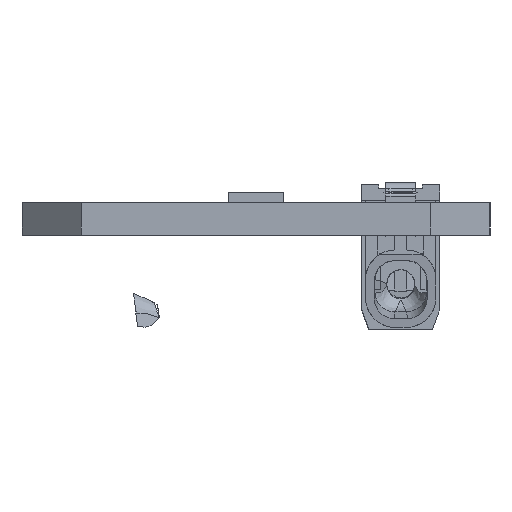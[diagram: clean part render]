
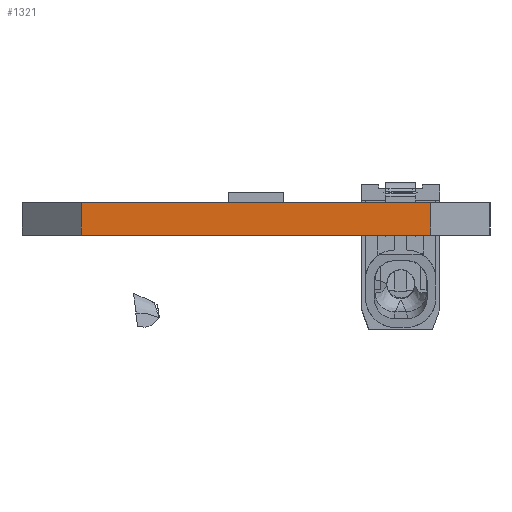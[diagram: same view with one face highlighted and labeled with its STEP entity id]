
A CAD part, left-side view. The second image highlights one B-rep face of the part: STEP entity #1321.
In plain terms, the highlighted planar face has unit normal (-1, 0, 0).
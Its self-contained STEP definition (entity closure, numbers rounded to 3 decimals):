
#314=DIRECTION('',(0.,1.,0.));
#315=VECTOR('',#314,17.6);
#316=CARTESIAN_POINT('',(-139.5,-8.8,1.65));
#317=LINE('',#316,#315);
#509=DIRECTION('',(0.,0.,-1.));
#510=VECTOR('',#509,1.65);
#511=CARTESIAN_POINT('',(-139.5,-8.8,1.65));
#512=LINE('',#511,#510);
#513=DIRECTION('',(0.,1.,0.));
#514=VECTOR('',#513,17.6);
#515=CARTESIAN_POINT('',(-139.5,-8.8,0.));
#516=LINE('',#515,#514);
#517=DIRECTION('',(0.,0.,1.));
#518=VECTOR('',#517,1.65);
#519=CARTESIAN_POINT('',(-139.5,8.8,0.));
#520=LINE('',#519,#518);
#815=CARTESIAN_POINT('',(-139.5,-8.8,0.));
#817=VERTEX_POINT('',#815);
#819=CARTESIAN_POINT('',(-139.5,8.8,0.));
#820=VERTEX_POINT('',#819);
#879=CARTESIAN_POINT('',(-139.5,8.8,1.65));
#880=VERTEX_POINT('',#879);
#917=CARTESIAN_POINT('',(-139.5,-8.8,1.65));
#918=VERTEX_POINT('',#917);
#1309=CARTESIAN_POINT('',(-139.5,0.,0.825));
#1310=DIRECTION('',(1.,0.,0.));
#1311=DIRECTION('',(0.,0.,1.));
#1312=AXIS2_PLACEMENT_3D('',#1309,#1310,#1311);
#1313=PLANE('',#1312);
#1314=ORIENTED_EDGE('',*,*,#1106,.T.);
#1315=ORIENTED_EDGE('',*,*,#1041,.T.);
#1317=ORIENTED_EDGE('',*,*,#1316,.T.);
#1318=ORIENTED_EDGE('',*,*,#1216,.F.);
#1319=EDGE_LOOP('',(#1314,#1315,#1317,#1318));
#1320=FACE_OUTER_BOUND('',#1319,.F.);
#1321=ADVANCED_FACE('',(#1320),#1313,.F.);
#1041=EDGE_CURVE('',#817,#820,#516,.T.);
#1106=EDGE_CURVE('',#918,#817,#512,.T.);
#1216=EDGE_CURVE('',#918,#880,#317,.T.);
#1316=EDGE_CURVE('',#820,#880,#520,.T.);
